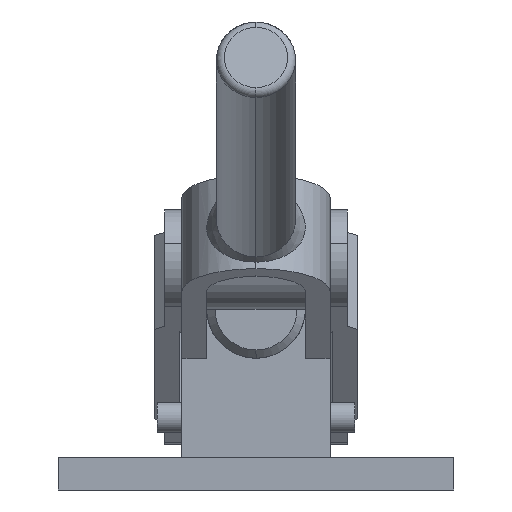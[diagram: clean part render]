
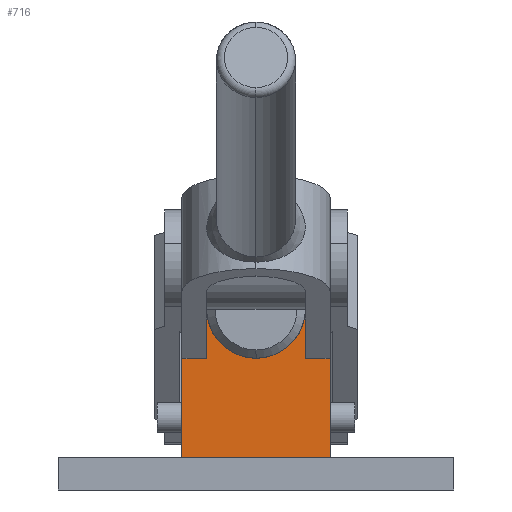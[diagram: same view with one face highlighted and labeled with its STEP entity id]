
A CAD part, left-side view. The second image highlights one B-rep face of the part: STEP entity #716.
In plain terms, the highlighted planar face has unit normal (-1, 0, 0).
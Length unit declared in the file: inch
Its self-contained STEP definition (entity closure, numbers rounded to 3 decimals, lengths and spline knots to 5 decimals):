
#716 = ADVANCED_FACE( '', ( #942, #943 ), #944, .T. );
#942 = FACE_OUTER_BOUND( '', #1255, .T. );
#943 = FACE_BOUND( '', #1256, .T. );
#944 = PLANE( '', #1257 );
#1255 = EDGE_LOOP( '', ( #1998, #1999, #2000, #2001 ) );
#1256 = EDGE_LOOP( '', ( #2002, #2003, #2004 ) );
#1257 = AXIS2_PLACEMENT_3D( '', #2005, #2006, #2007 );
#1998 = ORIENTED_EDGE( '', *, *, #2821, .F. );
#1999 = ORIENTED_EDGE( '', *, *, #2822, .T. );
#2000 = ORIENTED_EDGE( '', *, *, #2823, .T. );
#2001 = ORIENTED_EDGE( '', *, *, #2811, .F. );
#2002 = ORIENTED_EDGE( '', *, *, #2824, .F. );
#2003 = ORIENTED_EDGE( '', *, *, #2825, .F. );
#2004 = ORIENTED_EDGE( '', *, *, #2795, .F. );
#2005 = CARTESIAN_POINT( '', ( -2.5, -0.5625, 0. ) );
#2006 = DIRECTION( '', ( -1., 0., 0. ) );
#2007 = DIRECTION( '', ( 0., 0., 1. ) );
#2795 = EDGE_CURVE( '', #3296, #3292, #3298, .T. );
#2811 = EDGE_CURVE( '', #3326, #3328, #3329, .T. );
#2821 = EDGE_CURVE( '', #3342, #3326, #3344, .T. );
#2822 = EDGE_CURVE( '', #3342, #3345, #3346, .T. );
#2823 = EDGE_CURVE( '', #3345, #3328, #3347, .T. );
#2824 = EDGE_CURVE( '', #3348, #3296, #3349, .T. );
#2825 = EDGE_CURVE( '', #3292, #3348, #3350, .T. );
#3292 = VERTEX_POINT( '', #4096 );
#3296 = VERTEX_POINT( '', #4101 );
#3298 = CIRCLE( '', #4104, 0.37575 );
#3326 = VERTEX_POINT( '', #4136 );
#3328 = VERTEX_POINT( '', #4139 );
#3329 = LINE( '', #4140, #4141 );
#3342 = VERTEX_POINT( '', #4159 );
#3344 = LINE( '', #4162, #4163 );
#3345 = VERTEX_POINT( '', #4164 );
#3346 = LINE( '', #4165, #4166 );
#3347 = LINE( '', #4167, #4168 );
#3348 = VERTEX_POINT( '', #4169 );
#3349 = CIRCLE( '', #4170, 0.37575 );
#3350 = CIRCLE( '', #4171, 0.37575 );
#4096 = CARTESIAN_POINT( '', ( -2.5, 0., 0.74925 ) );
#4101 = CARTESIAN_POINT( '', ( -2.5, 0., 1.50075 ) );
#4104 = AXIS2_PLACEMENT_3D( '', #4975, #4976, #4977 );
#4136 = CARTESIAN_POINT( '', ( -2.5, -0.5625, 1.75 ) );
#4139 = CARTESIAN_POINT( '', ( -2.5, -0.5625, 0. ) );
#4140 = CARTESIAN_POINT( '', ( -2.5, -0.5625, 1.75 ) );
#4141 = VECTOR( '', #5013, 1. );
#4159 = CARTESIAN_POINT( '', ( -2.5, 0.5625, 1.75 ) );
#4162 = CARTESIAN_POINT( '', ( -2.5, 0.5625, 1.75 ) );
#4163 = VECTOR( '', #5029, 1. );
#4164 = CARTESIAN_POINT( '', ( -2.5, 0.5625, 0. ) );
#4165 = CARTESIAN_POINT( '', ( -2.5, 0.5625, 1.75 ) );
#4166 = VECTOR( '', #5030, 1. );
#4167 = CARTESIAN_POINT( '', ( -2.5, 0.5625, 0. ) );
#4168 = VECTOR( '', #5031, 1. );
#4169 = CARTESIAN_POINT( '', ( -2.5, -0.37575, 1.125 ) );
#4170 = AXIS2_PLACEMENT_3D( '', #5032, #5033, #5034 );
#4171 = AXIS2_PLACEMENT_3D( '', #5035, #5036, #5037 );
#4975 = CARTESIAN_POINT( '', ( -2.5, 0., 1.125 ) );
#4976 = DIRECTION( '', ( -1., 0., 0. ) );
#4977 = DIRECTION( '', ( 0., -1., 0. ) );
#5013 = DIRECTION( '', ( 0., 0., -1. ) );
#5029 = DIRECTION( '', ( 0., -1., 0. ) );
#5030 = DIRECTION( '', ( 0., 0., -1. ) );
#5031 = DIRECTION( '', ( 0., -1., 0. ) );
#5032 = CARTESIAN_POINT( '', ( -2.5, 0., 1.125 ) );
#5033 = DIRECTION( '', ( -1., 0., 0. ) );
#5034 = DIRECTION( '', ( 0., -1., 0. ) );
#5035 = CARTESIAN_POINT( '', ( -2.5, 0., 1.125 ) );
#5036 = DIRECTION( '', ( -1., 0., 0. ) );
#5037 = DIRECTION( '', ( 0., -1., 0. ) );
